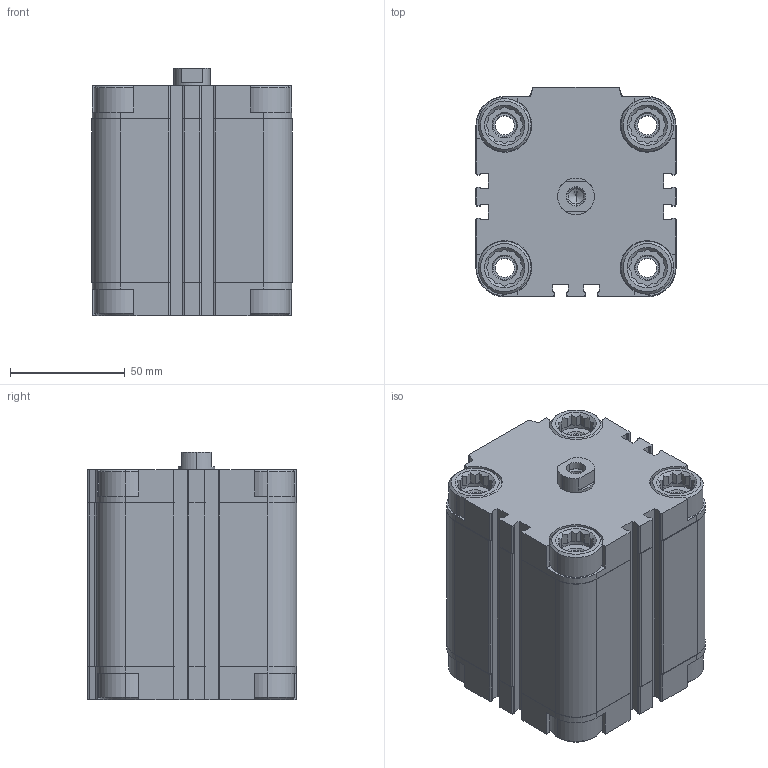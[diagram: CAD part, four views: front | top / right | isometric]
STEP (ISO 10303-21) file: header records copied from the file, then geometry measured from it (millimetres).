
FILE_DESCRIPTION (( 'STEP AP203' ), '1' );
FILE_NAME ('CDVU63-50F.STEP', '2020-03-30T15:02:20', ( '' ), ( '' ), 'SwSTEP 2.0', 'SolidWorks 2019', '' );
FILE_SCHEMA (( 'CONFIG_CONTROL_DESIGN' ));
Length unit declared in the file: millimetre
Products named in the file (1): CDVU63-50F
Bounding box: 87 x 91 x 107.5 mm (x, y, z)
Volume: 526929.3 mm3; surface area: 111813.6 mm2
Topology: 2 solids, 2 shells, 609 faces, 1634 edges, 1071 vertices
Faces by surface type: plane 365, cylinder 182, cone 62
Entity records: 19241 total; most frequent: CARTESIAN_POINT 3885, ORIENTED_EDGE 3256, DIRECTION 3096, EDGE_CURVE 1628, VERTEX_POINT 1071, AXIS2_PLACEMENT_3D 1050, VECTOR 996, LINE 996
